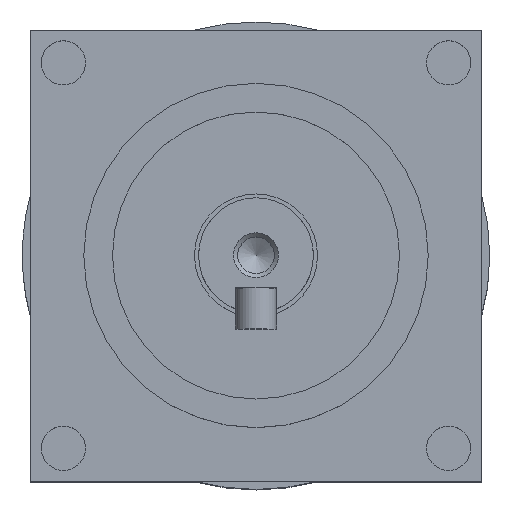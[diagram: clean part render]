
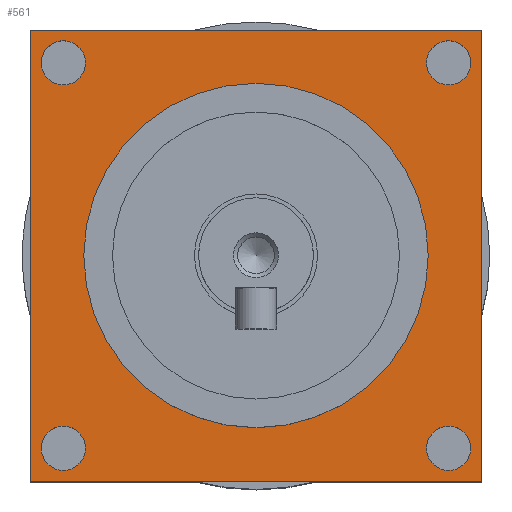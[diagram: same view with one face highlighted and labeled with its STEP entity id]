
A CAD part, top view. The second image highlights one B-rep face of the part: STEP entity #561.
In plain terms, the highlighted planar face has unit normal (0, 0, 1).
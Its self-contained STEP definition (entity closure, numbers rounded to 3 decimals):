
#561=ADVANCED_FACE('',(#1223,#1225,#1227,#1229,#1231,#1233),#1235,.T.);
#1223=FACE_BOUND('',#1224,.T.);
#1224=EDGE_LOOP('',(#1616,#1617,#1618,#1619));
#1225=FACE_BOUND('',#1226,.T.);
#1226=EDGE_LOOP('',(#1620));
#1227=FACE_BOUND('',#1228,.T.);
#1228=EDGE_LOOP('',(#1621));
#1229=FACE_BOUND('',#1230,.T.);
#1230=EDGE_LOOP('',(#1622));
#1231=FACE_BOUND('',#1232,.T.);
#1232=EDGE_LOOP('',(#1623));
#1233=FACE_BOUND('',#1234,.T.);
#1234=EDGE_LOOP('',(#1624));
#1235=PLANE('',#1236);
#1236=AXIS2_PLACEMENT_3D('',#1237,#1238,#1239);
#1237=CARTESIAN_POINT('',(0.,0.,11.));
#1238=DIRECTION('',(0.,0.,1.));
#1239=DIRECTION('',(1.,0.,0.));
#1616=ORIENTED_EDGE('',*,*,#1801,.T.);
#1617=ORIENTED_EDGE('',*,*,#1798,.T.);
#1618=ORIENTED_EDGE('',*,*,#1796,.T.);
#1619=ORIENTED_EDGE('',*,*,#1804,.T.);
#1620=ORIENTED_EDGE('',*,*,#1807,.F.);
#1621=ORIENTED_EDGE('',*,*,#1806,.T.);
#1622=ORIENTED_EDGE('',*,*,#1805,.T.);
#1623=ORIENTED_EDGE('',*,*,#1803,.T.);
#1624=ORIENTED_EDGE('',*,*,#1800,.T.);
#1796=EDGE_CURVE('',#2021,#2019,#2022,.T.);
#1798=EDGE_CURVE('',#2024,#2021,#2025,.T.);
#1800=EDGE_CURVE('',#2027,#2027,#2028,.F.);
#1801=EDGE_CURVE('',#2029,#2024,#2030,.T.);
#1803=EDGE_CURVE('',#2032,#2032,#2033,.F.);
#1804=EDGE_CURVE('',#2019,#2029,#2034,.T.);
#1805=EDGE_CURVE('',#2035,#2035,#2036,.F.);
#1806=EDGE_CURVE('',#2037,#2037,#2038,.F.);
#1807=EDGE_CURVE('',#2039,#2039,#2040,.T.);
#2019=VERTEX_POINT('',#2986);
#2021=VERTEX_POINT('',#2990);
#2022=LINE('',#2991,#2992);
#2024=VERTEX_POINT('',#2997);
#2025=LINE('',#2998,#2999);
#2027=VERTEX_POINT('',#3004);
#2028=CIRCLE('',#3005,2.7);
#2029=VERTEX_POINT('',#3009);
#2030=LINE('',#3010,#3011);
#2032=VERTEX_POINT('',#3016);
#2033=CIRCLE('',#3017,2.7);
#2034=LINE('',#3021,#3022);
#2035=VERTEX_POINT('',#3024);
#2036=CIRCLE('',#3025,2.7);
#2037=VERTEX_POINT('',#3029);
#2038=CIRCLE('',#3030,2.7);
#2039=VERTEX_POINT('',#3034);
#2040=CIRCLE('',#3035,21.);
#2986=CARTESIAN_POINT('',(-27.5,-27.5,11.));
#2990=CARTESIAN_POINT('',(-27.5,27.5,11.));
#2991=CARTESIAN_POINT('',(-27.5,27.5,11.));
#2992=VECTOR('',#2993,1.);
#2993=DIRECTION('',(0.,-1.,0.));
#2997=CARTESIAN_POINT('',(27.5,27.5,11.));
#2998=CARTESIAN_POINT('',(27.5,27.5,11.));
#2999=VECTOR('',#3000,1.);
#3000=DIRECTION('',(-1.,0.,0.));
#3004=CARTESIAN_POINT('',(-20.8,23.5,11.));
#3005=AXIS2_PLACEMENT_3D('',#3006,#3007,#3008);
#3006=CARTESIAN_POINT('',(-23.5,23.5,11.));
#3007=DIRECTION('',(0.,0.,1.));
#3008=DIRECTION('',(1.,0.,0.));
#3009=CARTESIAN_POINT('',(27.5,-27.5,11.));
#3010=CARTESIAN_POINT('',(27.5,-27.5,11.));
#3011=VECTOR('',#3012,1.);
#3012=DIRECTION('',(0.,1.,0.));
#3016=CARTESIAN_POINT('',(26.2,23.5,11.));
#3017=AXIS2_PLACEMENT_3D('',#3018,#3019,#3020);
#3018=CARTESIAN_POINT('',(23.5,23.5,11.));
#3019=DIRECTION('',(0.,0.,1.));
#3020=DIRECTION('',(1.,0.,0.));
#3021=CARTESIAN_POINT('',(-27.5,-27.5,11.));
#3022=VECTOR('',#3023,1.);
#3023=DIRECTION('',(1.,0.,0.));
#3024=CARTESIAN_POINT('',(26.2,-23.5,11.));
#3025=AXIS2_PLACEMENT_3D('',#3026,#3027,#3028);
#3026=CARTESIAN_POINT('',(23.5,-23.5,11.));
#3027=DIRECTION('',(0.,0.,1.));
#3028=DIRECTION('',(1.,0.,0.));
#3029=CARTESIAN_POINT('',(-20.8,-23.5,11.));
#3030=AXIS2_PLACEMENT_3D('',#3031,#3032,#3033);
#3031=CARTESIAN_POINT('',(-23.5,-23.5,11.));
#3032=DIRECTION('',(0.,0.,1.));
#3033=DIRECTION('',(1.,0.,0.));
#3034=CARTESIAN_POINT('',(21.,0.,11.));
#3035=AXIS2_PLACEMENT_3D('',#3036,#3037,#3038);
#3036=CARTESIAN_POINT('',(0.,0.,11.));
#3037=DIRECTION('',(0.,0.,1.));
#3038=DIRECTION('',(1.,0.,0.));
